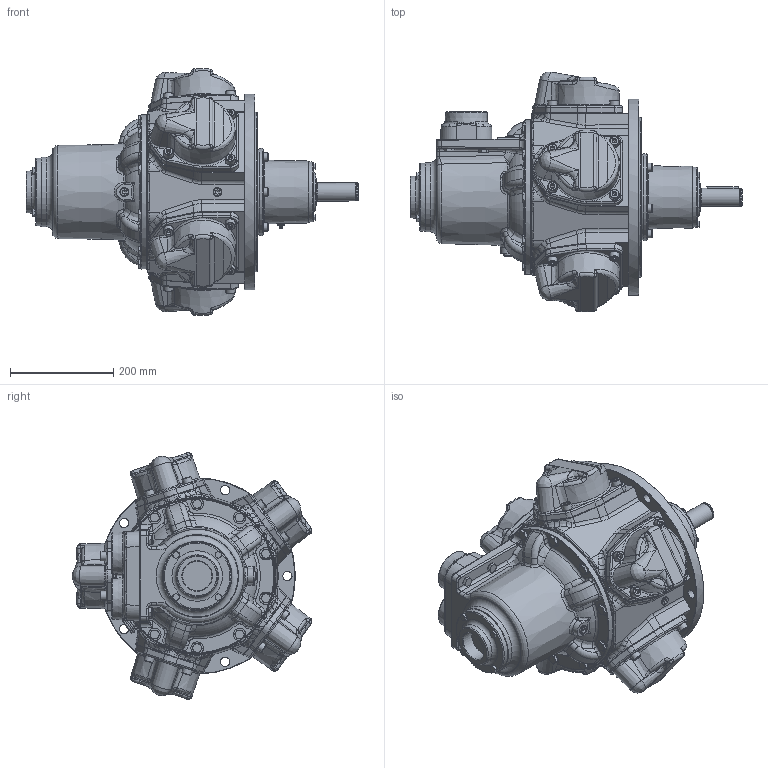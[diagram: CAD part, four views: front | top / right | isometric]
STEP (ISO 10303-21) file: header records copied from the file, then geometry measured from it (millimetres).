
FILE_DESCRIPTION (( 'STEP AP214' ), '1' );
FILE_NAME ('RM610.STEP', '2022-06-22T14:12:25', ( '' ), ( '' ), 'SwSTEP 2.0', 'SolidWorks 2020', '' );
FILE_SCHEMA (( 'AUTOMOTIVE_DESIGN' ));
Length unit declared in the file: millimetre
Products named in the file (1): RM610
Bounding box: 643.78 x 465.16 x 477.82 mm (x, y, z)
Volume: 32730235.8 mm3; surface area: 889802.3 mm2
Topology: 1 solids, 2 shells, 2990 faces, 7015 edges, 4087 vertices
Faces by surface type: plane 1282, cone 583, bspline 516, cylinder 455, torus 128, sphere 26
Full cylindrical faces by diameter (mm): 2.5 x2, 3.2 x1, 10 x5, 11.9 x4, 16 x15, 17 x22, 18 x25, 20 x20, 24.8 x1, 35.01 x1, 48 x1, 51.398 x1, 57 x3, 62 x1, 125 x1, 165.045 x1, 169 x1, 302 x1, 309.96 x1, 380 x1
Entity records: 149690 total; most frequent: CARTESIAN_POINT 58062, ORIENTED_EDGE 13202, DIRECTION 11863, EDGE_CURVE 6601, AXIS2_PLACEMENT_3D 4777, VERTEX_POINT 3966, EDGE_LOOP 3353, FACE_OUTER_BOUND 3117
